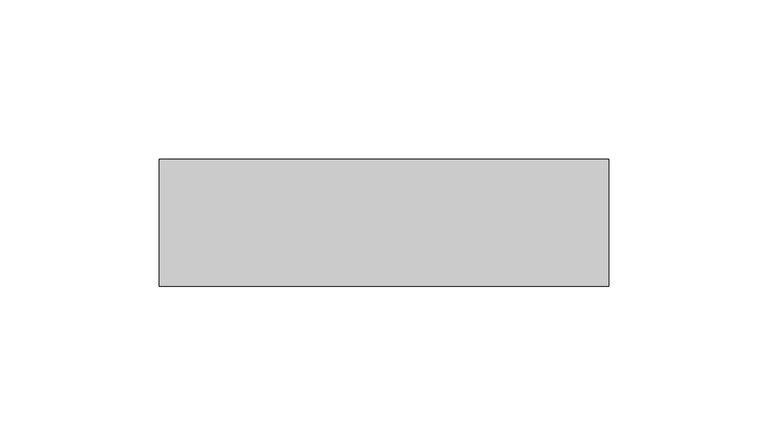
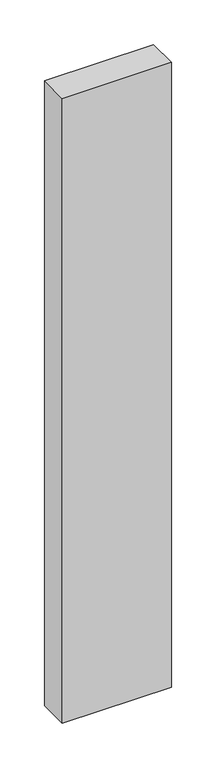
"""IFC4 building model written with IfcOpenShell, lengths in millimetres: plate geometry, Panneau système : Vitre 4cm."""

from ifc_helpers import new_model, si_unit, origin, origin_with_axes, place, context, project, spatial, polyline, outline, extrude, source, transform, mapped, element, save


def plate_f3fa755f(model_context):
    return source(origin(), model_context, "Body", "SweptSolid", [
        extrude(outline(polyline([(70.7105561, -20.0), (-70.7105561, -20.0), (-70.7105561, 20.0), (70.7105561, 20.0), (70.7105561, -20.0)])), origin_with_axes(), (0.0, 0.0, 1.0), 855.0),
    ])


if __name__ == "__main__":
    model = new_model("IFC4")
    model_context = context("Model", 3, world=origin())
    ifc_project = project(units=[si_unit("LENGTHUNIT", "METRE", prefix="MILLI")], contexts=[model_context])
    site = spatial("IfcSite", under=ifc_project)
    building = spatial("IfcBuilding", under=site)
    placement = place(None, origin())
    plate_shape = plate_f3fa755f(model_context)
    element("IfcPlate", 1, ObjectType="Panneau système : Vitre 4cm", at=placement, inside=building, context=model_context, shape_type="MappedRepresentation", body=[
        mapped(plate_shape, transform((0.0, 0.0, 0.0), x_axis=(1.0, 0.0, 0.0), y_axis=(0.0, 1.0, 0.0), z_axis=(0.0, 0.0, 1.0))),
    ])
    save(model, "model.ifc")
